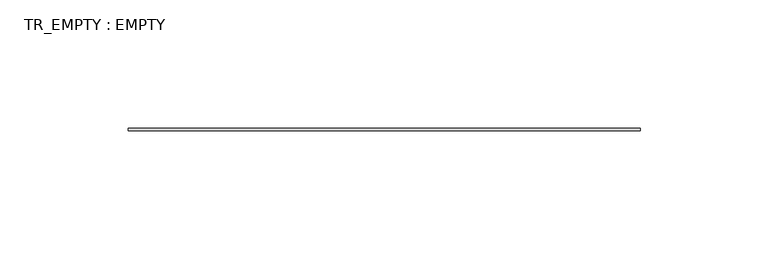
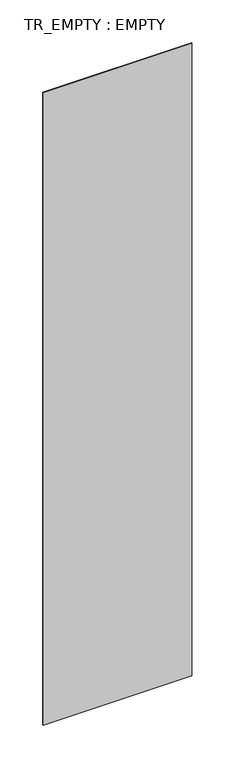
"""IFC4 building model written with IfcOpenShell, lengths in millimetres: plate geometry, TR_EMPTY : EMPTY."""

from ifc_helpers import new_model, si_unit, frame, origin, place, context, project, spatial, polyline, outline, extrude, source, transform, mapped, element, save


def tr_empty_empty_6663efe4(model_context):
    return source(origin(), model_context, "Body", "SweptSolid", [
        extrude(outline(polyline([(100.0, -31.0), (-100.0, -31.0), (-100.0, -30.0), (100.0, -30.0), (100.0, -31.0)])), frame((0.0, 0.0, 50.0), z_axis=(0.0, 0.0, 1.0), x_axis=(1.0, 0.0, 0.0)), (0.0, 0.0, 1.0), 900.0),
    ])


if __name__ == "__main__":
    model = new_model("IFC4")
    model_context = context("Model", 3, world=origin())
    ifc_project = project(units=[si_unit("LENGTHUNIT", "METRE", prefix="MILLI")], contexts=[model_context])
    site = spatial("IfcSite", under=ifc_project)
    building = spatial("IfcBuilding", under=site)
    placement = place(None, origin())
    tr_empty_empty_shape = tr_empty_empty_6663efe4(model_context)
    element("IfcPlate", 1, ObjectType="TR_EMPTY : EMPTY", at=placement, inside=building, context=model_context, shape_type="MappedRepresentation", body=[
        mapped(tr_empty_empty_shape, transform((0.0, 0.0, 0.0), x_axis=(1.0, 0.0, 0.0), y_axis=(0.0, 1.0, 0.0), z_axis=(0.0, 0.0, 1.0))),
    ])
    save(model, "model.ifc")
